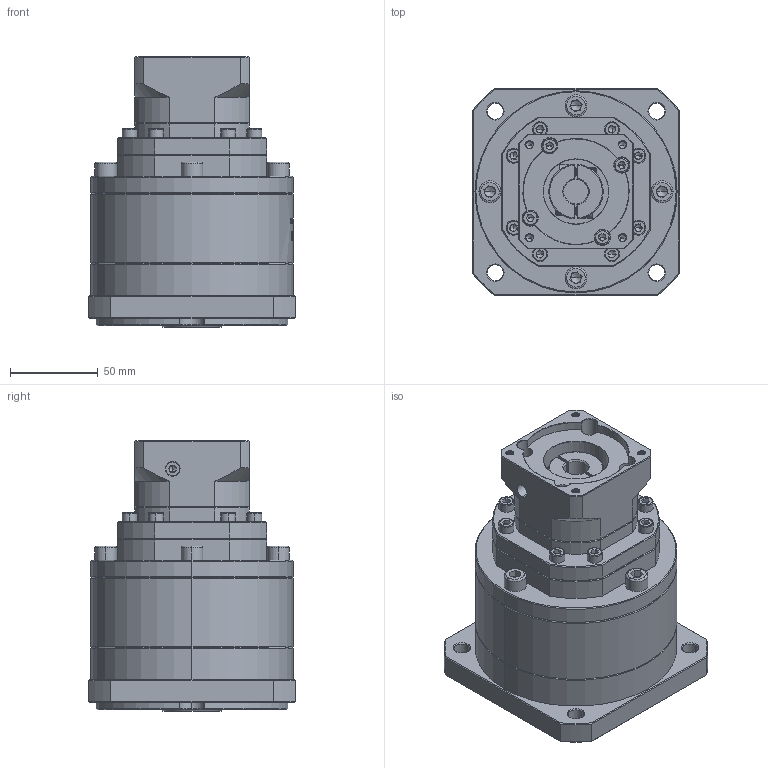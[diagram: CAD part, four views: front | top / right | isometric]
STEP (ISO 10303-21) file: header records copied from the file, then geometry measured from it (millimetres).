
FILE_DESCRIPTION (( 'STEP AP214' ), '1' );
FILE_NAME ('ZF120A-K25-L3-14-60-75-M5.step', '2023-03-07T15:57:08', ( '' ), ( 'Microsoft' ), 'SwSTEP 2.0', 'SolidWorks 2016', '' );
FILE_SCHEMA (( 'AUTOMOTIVE_DESIGN' ));
Length unit declared in the file: millimetre
Products named in the file (1): ZF120A-K25-L3-14-60-75-M5
Bounding box: 118 x 118 x 154 mm (x, y, z)
Volume: 1161832.1 mm3; surface area: 113617.6 mm2
Topology: 7 solids, 7 shells, 2035 faces, 5361 edges, 3425 vertices
Faces by surface type: plane 995, cylinder 393, bspline 328, cone 297, torus 22
Entity records: 104676 total; most frequent: CARTESIAN_POINT 35537, ORIENTED_EDGE 10618, DIRECTION 8456, EDGE_CURVE 5309, VERTEX_POINT 3425, LINE 2936, VECTOR 2936, AXIS2_PLACEMENT_3D 2760
